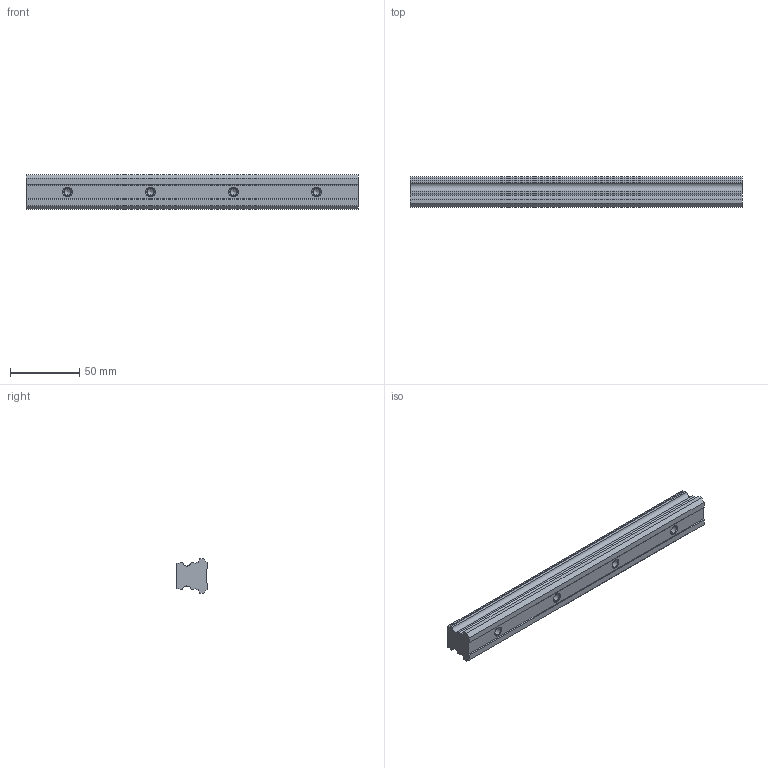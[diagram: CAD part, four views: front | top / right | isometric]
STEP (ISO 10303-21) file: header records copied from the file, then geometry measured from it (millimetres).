
FILE_DESCRIPTION (( 'STEP AP203' ), '1' );
FILE_NAME ('L1018.25R-0240.step', '2023-08-06T10:32:15', ( '' ), ( '' ), 'SwSTEP 2.0', 'SolidWorks 2019', '' );
FILE_SCHEMA (( 'CONFIG_CONTROL_DESIGN' ));
Length unit declared in the file: millimetre
Products named in the file (1): L1018.25R-0240
Bounding box: 240 x 21.8 x 25 mm (x, y, z)
Volume: 99813.1 mm3; surface area: 24677 mm2
Topology: 1 solids, 1 shells, 65 faces, 161 edges, 98 vertices
Faces by surface type: plane 30, cylinder 19, cone 16
Entity records: 1934 total; most frequent: DIRECTION 331, CARTESIAN_POINT 317, ORIENTED_EDGE 306, EDGE_CURVE 153, AXIS2_PLACEMENT_3D 112, LINE 107, VECTOR 107, VERTEX_POINT 98
